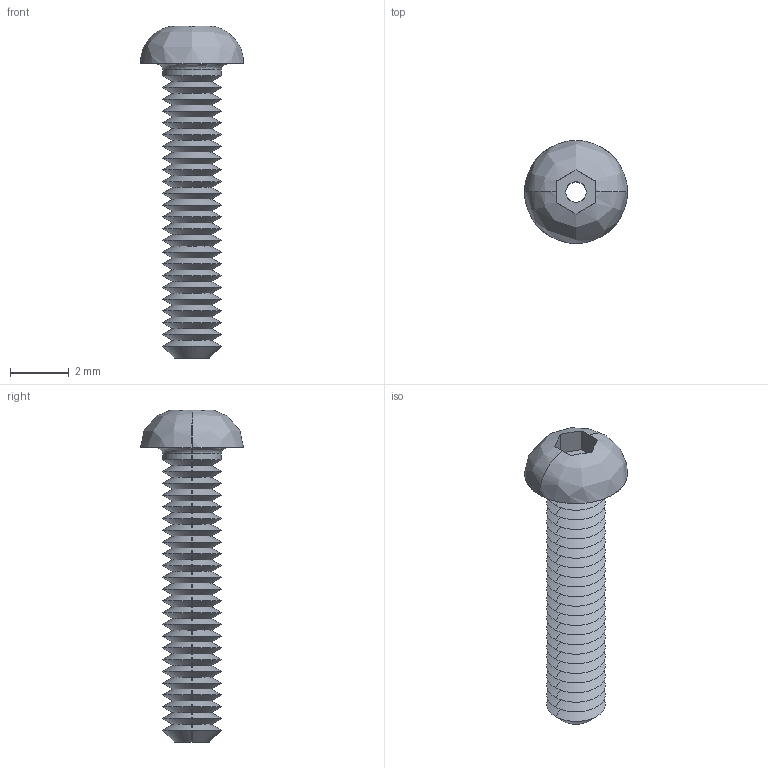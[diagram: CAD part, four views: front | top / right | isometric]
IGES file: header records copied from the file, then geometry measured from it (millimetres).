
Start section: SolidWorks IGES file using analytic representation for surfaces
Global section: file name: C:\Users\liam_\OneDrive\Documents\WORK\Work for WixRoyd\Job Files\J-00019 - Matt Davis CAD Checking\04. CAD Drawings\automotion20190605\P0094_v2\P0094_v2_20190712_IGES\P0094.020-010-A2.igs; native system: SolidWorks 2017; preprocessor: SolidWorks 2017; author: liam_; date: 190712.174951; units: millimetre
Bounding box: 3.5 x 3.5 x 11.29 mm (x, y, z)
Surface area: 151.2 mm2 (no closed solid volume)
Topology: 0 solids, 0 shells, 111 faces, 578 edges, 578 vertices
Faces by surface type: revolution 98, bspline 13
